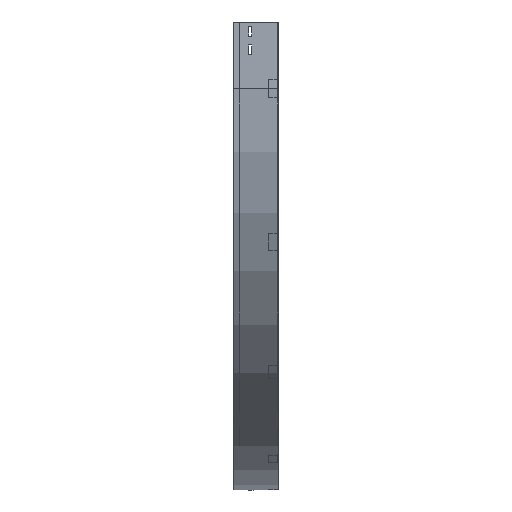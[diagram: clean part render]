
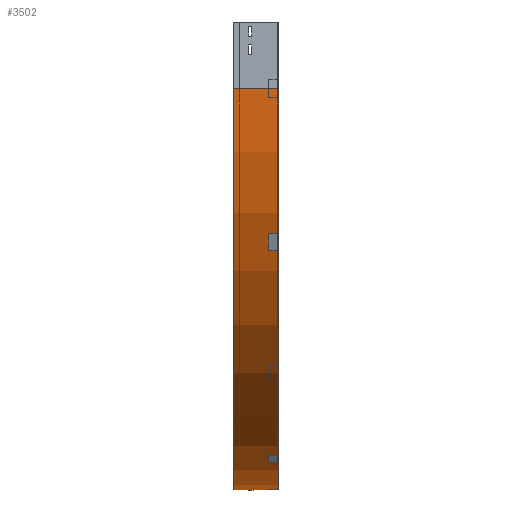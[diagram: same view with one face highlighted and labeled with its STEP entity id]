
A CAD part, left-side view. The second image highlights one B-rep face of the part: STEP entity #3502.
In plain terms, the highlighted cylindrical face has radius 900 mm (diameter 1800 mm), a partial arc.
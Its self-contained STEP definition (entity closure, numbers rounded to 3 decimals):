
#9 = DIRECTION ( 'NONE',  ( 0., 0., -1. ) ) ;
#92 = CIRCLE ( 'NONE', #894, 900. ) ;
#94 = AXIS2_PLACEMENT_3D ( 'NONE', #1090, #3224, #3806 ) ;
#419 = LINE ( 'NONE', #1872, #1843 ) ;
#609 = FACE_OUTER_BOUND ( 'NONE', #2807, .T. ) ;
#612 = LINE ( 'NONE', #653, #1165 ) ;
#617 = CARTESIAN_POINT ( 'NONE',  ( 900., 0., -150. ) ) ;
#653 = CARTESIAN_POINT ( 'NONE',  ( 900., 0., -1050. ) ) ;
#894 = AXIS2_PLACEMENT_3D ( 'NONE', #617, #2403, #3607 ) ;
#1090 = CARTESIAN_POINT ( 'NONE',  ( 900., 100., -150. ) ) ;
#1165 = VECTOR ( 'NONE', #2751, 1000. ) ;
#1203 = EDGE_CURVE ( 'NONE', #2238, #3209, #92, .T. ) ;
#1253 = ORIENTED_EDGE ( 'NONE', *, *, #1642, .F. ) ;
#1367 = ORIENTED_EDGE ( 'NONE', *, *, #2221, .T. ) ;
#1450 = ORIENTED_EDGE ( 'NONE', *, *, #1203, .F. ) ;
#1630 = DIRECTION ( 'NONE',  ( 0., -1., 0. ) ) ;
#1642 = EDGE_CURVE ( 'NONE', #2550, #2238, #419, .T. ) ;
#1730 = CARTESIAN_POINT ( 'NONE',  ( 900., 100., -1050. ) ) ;
#1828 = CARTESIAN_POINT ( 'NONE',  ( 900., 0., -150. ) ) ;
#1843 = VECTOR ( 'NONE', #1630, 1000. ) ;
#1872 = CARTESIAN_POINT ( 'NONE',  ( 0., 0., -150. ) ) ;
#2007 = AXIS2_PLACEMENT_3D ( 'NONE', #1828, #2945, #9 ) ;
#2105 = ORIENTED_EDGE ( 'NONE', *, *, #3140, .T. ) ;
#2132 = CYLINDRICAL_SURFACE ( 'NONE', #2007, 900. ) ;
#2146 = CIRCLE ( 'NONE', #94, 900. ) ;
#2214 = CARTESIAN_POINT ( 'NONE',  ( 900., 0., -1050. ) ) ;
#2221 = EDGE_CURVE ( 'NONE', #2550, #2232, #2146, .T. ) ;
#2232 = VERTEX_POINT ( 'NONE', #1730 ) ;
#2238 = VERTEX_POINT ( 'NONE', #2628 ) ;
#2403 = DIRECTION ( 'NONE',  ( 0., -1., 0. ) ) ;
#2550 = VERTEX_POINT ( 'NONE', #3778 ) ;
#2628 = CARTESIAN_POINT ( 'NONE',  ( 0., 0., -150. ) ) ;
#2751 = DIRECTION ( 'NONE',  ( 0., -1., 0. ) ) ;
#2807 = EDGE_LOOP ( 'NONE', ( #1450, #1253, #1367, #2105 ) ) ;
#2945 = DIRECTION ( 'NONE',  ( 0., -1., 0. ) ) ;
#3140 = EDGE_CURVE ( 'NONE', #2232, #3209, #612, .T. ) ;
#3209 = VERTEX_POINT ( 'NONE', #2214 ) ;
#3224 = DIRECTION ( 'NONE',  ( 0., -1., 0. ) ) ;
#3502 = ADVANCED_FACE ( 'NONE', ( #609 ), #2132, .T. ) ;
#3607 = DIRECTION ( 'NONE',  ( -1., 0., 0. ) ) ;
#3778 = CARTESIAN_POINT ( 'NONE',  ( 0., 100., -150. ) ) ;
#3806 = DIRECTION ( 'NONE',  ( -1., 0., 0. ) ) ;
